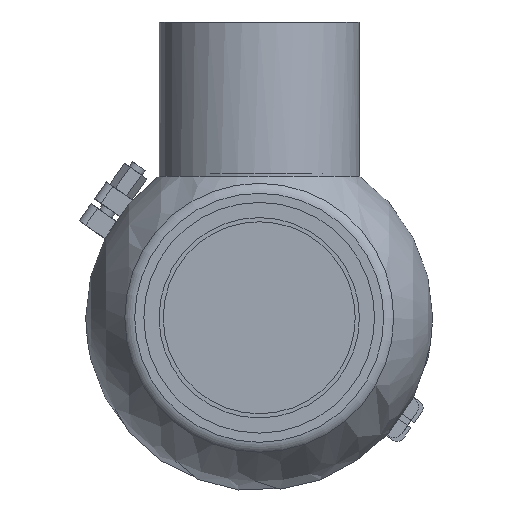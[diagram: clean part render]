
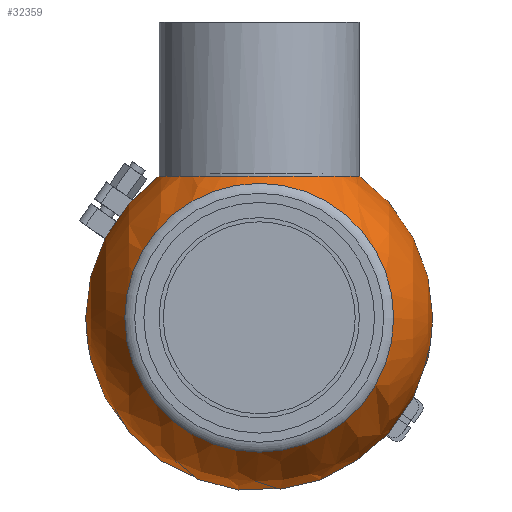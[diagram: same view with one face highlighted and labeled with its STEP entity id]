
A CAD part, front view. The second image highlights one B-rep face of the part: STEP entity #32359.
In plain terms, the highlighted spherical face has radius 88 mm.
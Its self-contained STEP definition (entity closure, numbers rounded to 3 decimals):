
#592 = ORIENTED_EDGE ( 'NONE', *, *, #24503, .F. ) ;
#782 = DIRECTION ( 'NONE',  ( 0., 0., 1. ) ) ;
#821 = CIRCLE ( 'NONE', #47002, 68.175 ) ;
#3128 = CARTESIAN_POINT ( 'NONE',  ( 71.857, 50.239, 7.53 ) ) ;
#5843 = DIRECTION ( 'NONE',  ( -1., 0., 0. ) ) ;
#7623 = EDGE_LOOP ( 'NONE', ( #592, #58673 ) ) ;
#9754 = CARTESIAN_POINT ( 'NONE',  ( 71.857, 0., 0. ) ) ;
#10668 = DIRECTION ( 'NONE',  ( 1., 0., 0. ) ) ;
#14129 = DIRECTION ( 'NONE',  ( 0., 0., 1. ) ) ;
#16276 = CARTESIAN_POINT ( 'NONE',  ( 0., 0., 0. ) ) ;
#18203 = EDGE_LOOP ( 'NONE', ( #41495 ) ) ;
#20014 = FACE_OUTER_BOUND ( 'NONE', #18203, .T. ) ;
#20537 = VERTEX_POINT ( 'NONE', #39601 ) ;
#20913 = SPHERICAL_SURFACE ( 'NONE', #35896, 88. ) ;
#24503 = EDGE_CURVE ( 'NONE', #57607, #46321, #48252, .T. ) ;
#25212 = FACE_OUTER_BOUND ( 'NONE', #7623, .T. ) ;
#26814 = CARTESIAN_POINT ( 'NONE',  ( 71.857, 50.239, -7.53 ) ) ;
#28285 = CARTESIAN_POINT ( 'NONE',  ( 0., -55.643, 0. ) ) ;
#31964 = CIRCLE ( 'NONE', #51618, 72.25 ) ;
#32359 = ADVANCED_FACE ( 'NONE', ( #25212, #20014 ), #20913, .T. ) ;
#35428 = AXIS2_PLACEMENT_3D ( 'NONE', #9754, #10668, #782 ) ;
#35896 = AXIS2_PLACEMENT_3D ( 'NONE', #16276, #43973, #5843 ) ;
#39601 = CARTESIAN_POINT ( 'NONE',  ( 0., -55.643, 68.175 ) ) ;
#41476 = EDGE_CURVE ( 'NONE', #20537, #20537, #821, .T. ) ;
#41495 = ORIENTED_EDGE ( 'NONE', *, *, #41476, .T. ) ;
#41651 = DIRECTION ( 'NONE',  ( 0., 0., 1. ) ) ;
#43973 = DIRECTION ( 'NONE',  ( 0., 0., 1. ) ) ;
#45364 = CARTESIAN_POINT ( 'NONE',  ( 0., 50.239, 0. ) ) ;
#46321 = VERTEX_POINT ( 'NONE', #26814 ) ;
#47002 = AXIS2_PLACEMENT_3D ( 'NONE', #28285, #52281, #14129 ) ;
#48252 = CIRCLE ( 'NONE', #35428, 50.8 ) ;
#50374 = EDGE_CURVE ( 'NONE', #46321, #57607, #31964, .T. ) ;
#51618 = AXIS2_PLACEMENT_3D ( 'NONE', #45364, #54591, #41651 ) ;
#52281 = DIRECTION ( 'NONE',  ( 0., 1., 0. ) ) ;
#54591 = DIRECTION ( 'NONE',  ( 0., 1., 0. ) ) ;
#57607 = VERTEX_POINT ( 'NONE', #3128 ) ;
#58673 = ORIENTED_EDGE ( 'NONE', *, *, #50374, .F. ) ;
